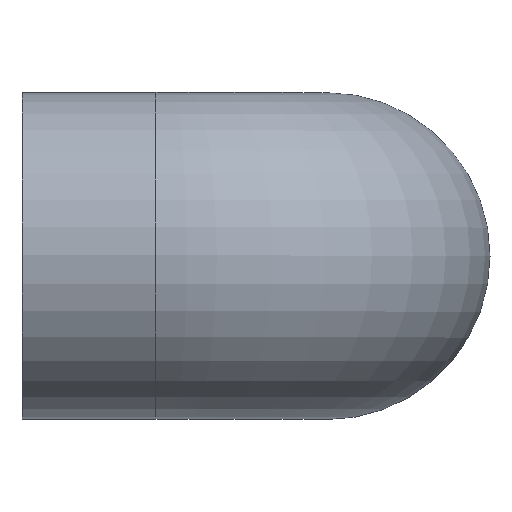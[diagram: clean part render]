
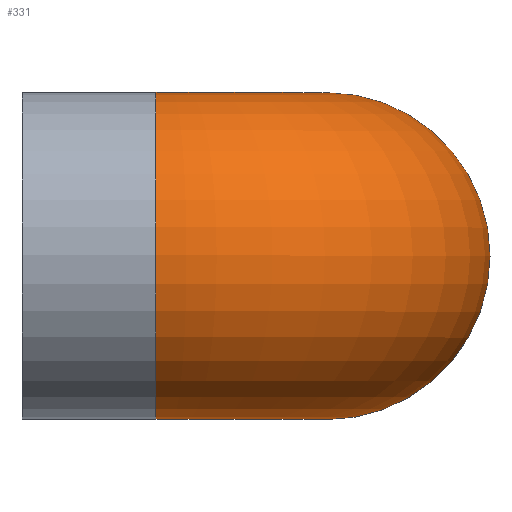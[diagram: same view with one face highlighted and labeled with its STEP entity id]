
A CAD part, top view. The second image highlights one B-rep face of the part: STEP entity #331.
In plain terms, the highlighted toroidal (fillet/blend) face has major radius 46.5 mm and minor radius 44.5 mm.
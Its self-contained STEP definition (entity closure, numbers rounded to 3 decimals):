
#19=FACE_BOUND('',#92,.T.);
#24=TOROIDAL_SURFACE('',#357,46.5,44.5);
#65=FACE_OUTER_BOUND('',#91,.T.);
#91=EDGE_LOOP('',(#287));
#92=EDGE_LOOP('',(#288));
#110=CIRCLE('',#356,44.5);
#111=CIRCLE('',#358,44.5);
#164=VERTEX_POINT('',#10816);
#165=VERTEX_POINT('',#10819);
#208=EDGE_CURVE('',#164,#164,#110,.T.);
#209=EDGE_CURVE('',#165,#165,#111,.T.);
#287=ORIENTED_EDGE('',*,*,#208,.F.);
#288=ORIENTED_EDGE('',*,*,#209,.T.);
#331=ADVANCED_FACE('',(#65,#19),#24,.T.);
#356=AXIS2_PLACEMENT_3D('',#10817,#409,#410);
#357=AXIS2_PLACEMENT_3D('',#10818,#411,#412);
#358=AXIS2_PLACEMENT_3D('',#10820,#413,#414);
#409=DIRECTION('center_axis',(-1.,0.,0.));
#410=DIRECTION('ref_axis',(0.,0.,-1.));
#411=DIRECTION('center_axis',(0.,-1.,0.));
#412=DIRECTION('ref_axis',(0.,0.,-1.));
#413=DIRECTION('center_axis',(0.,0.,1.));
#414=DIRECTION('ref_axis',(-1.,0.,0.));
#10816=CARTESIAN_POINT('',(-46.5,0.,127.5));
#10817=CARTESIAN_POINT('Origin',(-46.5,0.,83.));
#10818=CARTESIAN_POINT('Origin',(-46.5,0.,36.5));
#10819=CARTESIAN_POINT('',(44.5,0.,36.5));
#10820=CARTESIAN_POINT('Origin',(0.,0.,36.5));
